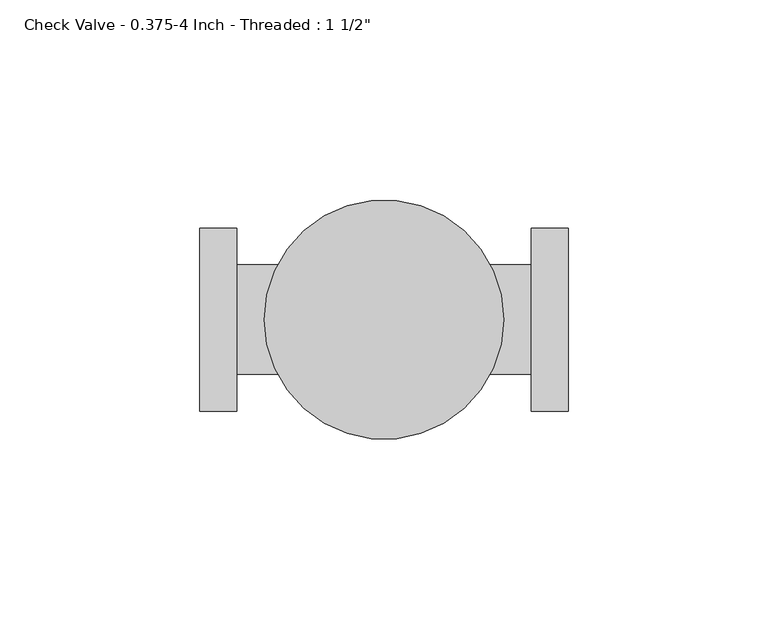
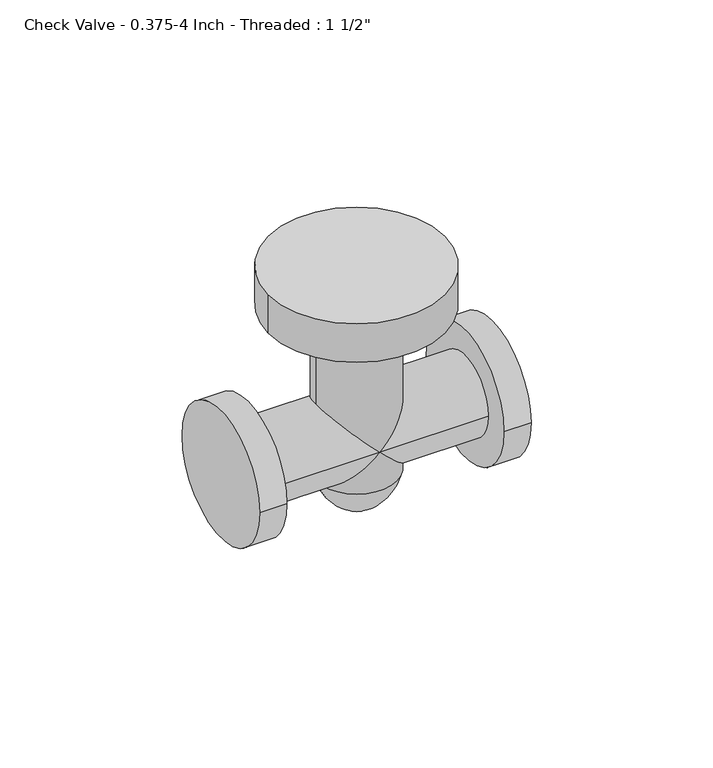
"""IFC4 building model written with IfcOpenShell, lengths in millimetres: valve geometry."""

from ifc_helpers import new_model, si_unit, point, frame, origin, place, context, project, spatial, circle_curve, ellipse_curve, trimmed, source, transform, mapped, element, save
from ifc_brep_helpers import plane_surface, cylinder_surface, revolved_surface, advanced_brep


def valve_175674eb(model_context):
    return source(origin(), model_context, "Body", "AdvancedBrep", [
        advanced_brep(
        [(-13.716, 0.0, 44.92625), (-13.716, 0.0, 13.716), (0.0, -13.716, 0.0), (13.716, 0.0, 13.716), (13.716, 0.0, 44.92625), (13.716, 0.0, -13.716), (-13.716, 0.0, -13.716), (0.0, 13.716, 0.0), (36.83, -13.716, 0.0), (36.83, 13.716, 0.0), (-36.83, -13.716, 0.0), (-36.83, 13.716, 0.0), (46.0375, -22.86, 0.0), (46.0375, 22.86, 0.0), (36.83, -22.86, 0.0), (36.83, 22.86, 0.0), (-36.83, -22.86, 0.0), (-36.83, 22.86, 0.0), (-46.0375, -22.86, 0.0), (-46.0375, 22.86, 0.0), (-29.924375, 0.0, 58.7375), (29.924375, 0.0, 58.7375), (-29.924375, 0.0, 44.92625), (29.924375, 0.0, 44.92625), (4.572, 0.0, -26.416), (-4.572, 0.0, -26.416), (0.0, 0.0, -26.416)],
        [
            (0, 1),
            (1, 2, ellipse_curve(frame((0.0, 0.0, 0.0), z_axis=(0.7071067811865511, 0.0, 0.7071067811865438), x_axis=(-0.7071067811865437, 0.0, 0.7071067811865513)), 19.3973532, 13.716)),
            (2, 3, ellipse_curve(frame((0.0, 0.0, 0.0), z_axis=(-0.7071067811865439, 0.0, 0.7071067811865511), x_axis=(0.7071067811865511, 0.0, 0.7071067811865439)), 19.3973532, 13.716)),
            (3, 4),
            (4, 0, circle_curve(frame((0.0, 0.0, 44.92625), z_axis=(0.0, 0.0, -1.0), x_axis=(1.0, 0.0, 0.0)), 13.716)),
            (5, 2, ellipse_curve(frame((0.0, 0.0, 0.0), z_axis=(-0.7071067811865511, 0.0, -0.7071067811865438), x_axis=(-0.7071067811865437, 0.0, 0.7071067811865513)), 19.3973532, 13.716)),
            (2, 6, ellipse_curve(frame((0.0, 0.0, 0.0), z_axis=(0.7071067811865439, 0.0, -0.7071067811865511), x_axis=(0.7071067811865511, 0.0, 0.7071067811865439)), 19.3973532, 13.716)),
            (6, 5, circle_curve(frame((0.0, 0.0, -13.716), z_axis=(0.0, 0.0, 1.0), x_axis=(1.0, 0.0, 0.0)), 13.716)),
            (0, 4, circle_curve(frame((0.0, 0.0, 44.92625), z_axis=(0.0, 0.0, -1.0), x_axis=(1.0, 0.0, 0.0)), 13.716)),
            (3, 7, ellipse_curve(frame((0.0, 0.0, 0.0), z_axis=(-0.7071067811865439, 0.0, 0.7071067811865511), x_axis=(0.7071067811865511, 0.0, 0.7071067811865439)), 19.3973532, 13.716)),
            (7, 1, ellipse_curve(frame((0.0, 0.0, 0.0), z_axis=(0.7071067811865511, 0.0, 0.7071067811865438), x_axis=(-0.7071067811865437, 0.0, 0.7071067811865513)), 19.3973532, 13.716)),
            (7, 5, ellipse_curve(frame((0.0, 0.0, 0.0), z_axis=(-0.7071067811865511, 0.0, -0.7071067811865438), x_axis=(-0.7071067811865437, 0.0, 0.7071067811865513)), 19.3973532, 13.716)),
            (5, 6, circle_curve(frame((0.0, 0.0, -13.716), z_axis=(0.0, 0.0, 1.0), x_axis=(1.0, 0.0, 0.0)), 13.716)),
            (6, 7, ellipse_curve(frame((0.0, 0.0, 0.0), z_axis=(0.7071067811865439, 0.0, -0.7071067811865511), x_axis=(0.7071067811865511, 0.0, 0.7071067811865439)), 19.3973532, 13.716)),
            (8, 2),
            (7, 9),
            (9, 8, circle_curve(frame((36.83, 0.0, 0.0), z_axis=(-1.0, 0.0, 0.0), x_axis=(0.0, 1.0, 0.0)), 13.716)),
            (2, 10),
            (10, 11, circle_curve(frame((-36.83, 0.0, 0.0), z_axis=(1.0, 0.0, 0.0), x_axis=(0.0, 1.0, 0.0)), 13.716)),
            (11, 7),
            (8, 9, circle_curve(frame((36.83, 0.0, 0.0), z_axis=(-1.0, 0.0, 0.0), x_axis=(0.0, 1.0, 0.0)), 13.716)),
            (11, 10, circle_curve(frame((-36.83, 0.0, 0.0), z_axis=(1.0, 0.0, 0.0), x_axis=(0.0, 1.0, 0.0)), 13.716)),
            (12, 13, circle_curve(frame((46.0375, 0.0, 0.0), z_axis=(1.0, 0.0, 0.0), x_axis=(0.0, 1.0, 0.0)), 22.86)),
            (13, 12, circle_curve(frame((46.0375, 0.0, 0.0), z_axis=(1.0, 0.0, 0.0), x_axis=(0.0, 1.0, 0.0)), 22.86)),
            (14, 15, circle_curve(frame((36.83, 0.0, 0.0), z_axis=(-1.0, 0.0, 0.0), x_axis=(0.0, 1.0, 0.0)), 22.86)),
            (15, 14, circle_curve(frame((36.83, 0.0, 0.0), z_axis=(-1.0, 0.0, 0.0), x_axis=(0.0, 1.0, 0.0)), 22.86)),
            (12, 14),
            (15, 13),
            (16, 17, circle_curve(frame((-36.83, 0.0, 0.0), z_axis=(1.0, 0.0, 0.0), x_axis=(0.0, 1.0, 0.0)), 22.86)),
            (17, 16, circle_curve(frame((-36.83, 0.0, 0.0), z_axis=(1.0, 0.0, 0.0), x_axis=(0.0, 1.0, 0.0)), 22.86)),
            (18, 19, circle_curve(frame((-46.0375, 0.0, 0.0), z_axis=(-1.0, 0.0, 0.0), x_axis=(0.0, 1.0, 0.0)), 22.86)),
            (19, 18, circle_curve(frame((-46.0375, 0.0, 0.0), z_axis=(-1.0, 0.0, 0.0), x_axis=(0.0, 1.0, 0.0)), 22.86)),
            (16, 18),
            (19, 17),
            (20, 21, circle_curve(frame((0.0, 0.0, 58.7375), z_axis=(0.0, 0.0, 1.0), x_axis=(1.0, 0.0, 0.0)), 29.924375)),
            (21, 20, circle_curve(frame((0.0, 0.0, 58.7375), z_axis=(0.0, 0.0, 1.0), x_axis=(1.0, 0.0, 0.0)), 29.924375)),
            (22, 23, circle_curve(frame((0.0, 0.0, 44.92625), z_axis=(0.0, 0.0, -1.0), x_axis=(1.0, 0.0, 0.0)), 29.924375)),
            (23, 22, circle_curve(frame((0.0, 0.0, 44.92625), z_axis=(0.0, 0.0, -1.0), x_axis=(1.0, 0.0, 0.0)), 29.924375)),
            (20, 22),
            (23, 21),
            (24, 25, circle_curve(frame((0.0, 0.0, -26.416), z_axis=(0.0, 0.0, 1.0), x_axis=(-1.0, 0.0, 0.0)), 4.572)),
            (25, 6, circle_curve(frame((6.5234343, 0.0, -8.7854473), z_axis=(0.0, 1.0, 0.0), x_axis=(1.0, 0.0, 0.0)), 20.8313478)),
            (5, 24, circle_curve(frame((-6.5234343, 0.0, -8.7854473), z_axis=(0.0, 1.0, 0.0), x_axis=(-1.0, 0.0, 0.0)), 20.8313478)),
            (25, 24, circle_curve(frame((0.0, 0.0, -26.416), z_axis=(0.0, 0.0, 1.0), x_axis=(-1.0, 0.0, 0.0)), 4.572)),
            (24, 26),
            (26, 25),
        ],
        [
            cylinder_surface(frame((0.0, 0.0, -13.716), z_axis=(0.0, 0.0, 1.0), x_axis=(1.0, 0.0, 0.0)), 13.716),
            cylinder_surface(frame((-36.83, 0.0, 0.0), z_axis=(1.0, 0.0, 0.0), x_axis=(0.0, 1.0, 0.0)), 13.716),
            plane_surface(frame((46.0375, 22.86, 0.0), z_axis=(1.0, 0.0, 0.0), x_axis=(0.0, 0.0, 1.0))),
            plane_surface(frame((36.83, 22.86, 0.0), z_axis=(-1.0, 0.0, 0.0), x_axis=(0.0, 0.0, -1.0))),
            cylinder_surface(frame((36.83, 0.0, 0.0), z_axis=(1.0, 0.0, 0.0), x_axis=(0.0, 1.0, 0.0)), 22.86),
            plane_surface(frame((-36.83, 22.86, 0.0), z_axis=(1.0, 0.0, 0.0), x_axis=(0.0, 0.0, 1.0))),
            plane_surface(frame((-46.0375, 22.86, 0.0), z_axis=(-1.0, 0.0, 0.0), x_axis=(0.0, 0.0, -1.0))),
            cylinder_surface(frame((-46.0375, 0.0, 0.0), z_axis=(1.0, 0.0, 0.0), x_axis=(0.0, 1.0, 0.0)), 22.86),
            plane_surface(frame((29.924375, 0.0, 58.7375), z_axis=(0.0, 0.0, 1.0), x_axis=(0.0, 1.0, 0.0))),
            plane_surface(frame((29.924375, 0.0, 44.92625), z_axis=(0.0, 0.0, -1.0), x_axis=(0.0, -1.0, 0.0))),
            cylinder_surface(frame((0.0, 0.0, 44.92625), z_axis=(0.0, 0.0, 1.0), x_axis=(1.0, 0.0, 0.0)), 29.924375),
            revolved_surface(trimmed(ellipse_curve(frame((6.5234343, 0.0, -8.7854473), z_axis=(0.0, -1.0, 0.0), x_axis=(1.0, 0.0, 0.0)), 20.8313478, 20.8313478), [point((-13.716, 0.0, -13.716))], [point((-4.572, 0.0, -26.416))], True, "CARTESIAN"), (0.0, 0.0, -31.3036451), (0.0, 0.0, -1.0)),
            plane_surface(frame((0.0, 0.0, -26.416), z_axis=(0.0, 0.0, -1.0), x_axis=(-1.0, 0.0, 0.0))),
        ],
        [
            (0, [[1, 2, 3, 4, 5]]),
            (0, [[6, 7, 8]]),
            (0, [[-1, 9, -4, 10, 11]]),
            (0, [[12, 13, 14]]),
            (1, [[15, -6, -12, 16, 17]]),
            (1, [[18, 19, 20, -14, -7]]),
            (1, [[-15, 21, -16, -10, -3]]),
            (1, [[-18, -2, -11, -20, 22]]),
            (2, [[23, 24]]),
            (3, [[25, 26], [-17, -21]]),
            (4, [[-23, 27, -26, 28]]),
            (4, [[-24, -28, -25, -27]]),
            (5, [[29, 30], [-19, -22]]),
            (6, [[31, 32]]),
            (7, [[-29, 33, -32, 34]]),
            (7, [[-30, -34, -31, -33]]),
            (8, [[35, 36]]),
            (9, [[37, 38], [-5, -9]]),
            (10, [[-35, 39, -38, 40]]),
            (10, [[-36, -40, -37, -39]]),
            (11, [[41, 42, -13, 43]]),
            (11, [[-42, 44, -43, -8]]),
            (12, [[-41, 45, 46]]),
            (12, [[-44, -46, -45]]),
        ],
    ),
    ])


if __name__ == "__main__":
    model = new_model("IFC4")
    model_context = context("Model", 3, world=origin())
    ifc_project = project(units=[si_unit("LENGTHUNIT", "METRE", prefix="MILLI")], contexts=[model_context])
    site = spatial("IfcSite", under=ifc_project)
    building = spatial("IfcBuilding", under=site)
    placement = place(None, origin())
    valve_shape = valve_175674eb(model_context)
    element("IfcValve", 1, ObjectType="Check Valve - 0.375-4 Inch - Threaded : 1 1/2\"", at=placement, inside=building, context=model_context, shape_type="MappedRepresentation", body=[
        mapped(valve_shape, transform((0.0, 0.0, 0.0), x_axis=(1.0, 0.0, 0.0), y_axis=(0.0, 1.0, 0.0), z_axis=(0.0, 0.0, 1.0))),
    ])
    save(model, "model.ifc")
